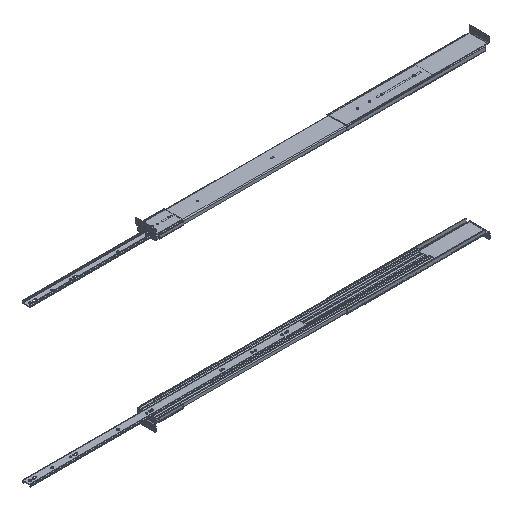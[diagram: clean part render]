
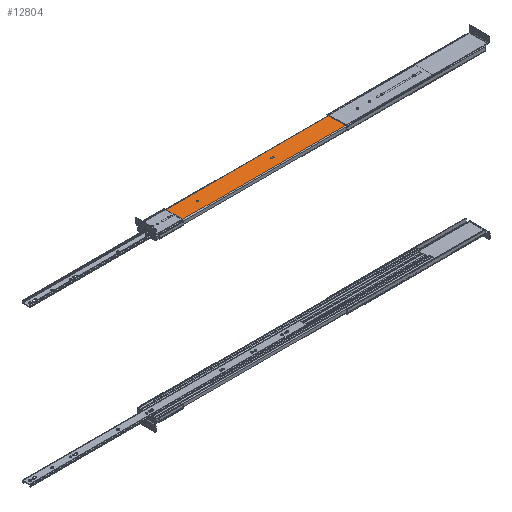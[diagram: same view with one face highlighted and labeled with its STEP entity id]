
A CAD part, isometric view. The second image highlights one B-rep face of the part: STEP entity #12804.
In plain terms, the highlighted planar face has unit normal (0, 0, 1).
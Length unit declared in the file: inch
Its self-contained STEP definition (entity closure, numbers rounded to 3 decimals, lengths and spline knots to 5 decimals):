
#274 = VERTEX_POINT ( 'NONE', #1266 ) ;
#284 = VERTEX_POINT ( 'NONE', #1129 ) ;
#290 = EDGE_CURVE ( 'NONE', #284, #291, #1350, .T. ) ;
#291 = VERTEX_POINT ( 'NONE', #1345 ) ;
#517 = EDGE_CURVE ( 'NONE', #274, #518, #1577, .T. ) ;
#518 = VERTEX_POINT ( 'NONE', #1573 ) ;
#1129 = CARTESIAN_POINT ( 'NONE',  ( 13.745, 1., 0. ) ) ;
#1266 = CARTESIAN_POINT ( 'NONE',  ( 5.42, 1., 0. ) ) ;
#1345 = CARTESIAN_POINT ( 'NONE',  ( 13.655, 1.09, 0. ) ) ;
#1346 = DIRECTION ( 'NONE',  ( -1., 0., 0. ) ) ;
#1347 = DIRECTION ( 'NONE',  ( 0., 0., 1. ) ) ;
#1348 = CARTESIAN_POINT ( 'NONE',  ( 13.655, 1., 0. ) ) ;
#1349 = AXIS2_PLACEMENT_3D ( 'NONE', #1348, #1347, #1346 ) ;
#1350 = CIRCLE ( 'NONE', #1349, 0.09 ) ;
#1573 = CARTESIAN_POINT ( 'NONE',  ( 5.6, 1., 0. ) ) ;
#1574 = DIRECTION ( 'NONE',  ( 1., 0., 0. ) ) ;
#1575 = DIRECTION ( 'NONE',  ( 0., 0., 1. ) ) ;
#1576 = AXIS2_PLACEMENT_3D ( 'NONE', #1595, #1575, #1574 ) ;
#1577 = CIRCLE ( 'NONE', #1576, 0.09 ) ;
#1595 = CARTESIAN_POINT ( 'NONE',  ( 5.51, 1., 0. ) ) ;
#5282 = CARTESIAN_POINT ( 'NONE',  ( 20.55868, 0.09, 0. ) ) ;
#5377 = CARTESIAN_POINT ( 'NONE',  ( 20.55868, 1.91, 0. ) ) ;
#5579 = DIRECTION ( 'NONE',  ( 0., 1., 0. ) ) ;
#5580 = VECTOR ( 'NONE', #5579, 39.37008 ) ;
#5581 = CARTESIAN_POINT ( 'NONE',  ( 20.55868, 2.0075, 0. ) ) ;
#5582 = LINE ( 'NONE', #5581, #5580 ) ;
#9626 = CIRCLE ( 'NONE', #9816, 0.09 ) ;
#9665 = FACE_OUTER_BOUND ( 'NONE', #13451, .T. ) ;
#9667 = FACE_BOUND ( 'NONE', #13448, .T. ) ;
#9674 = FACE_BOUND ( 'NONE', #12805, .T. ) ;
#9675 = PLANE ( 'NONE',  #9738 ) ;
#9681 = DIRECTION ( 'NONE',  ( 0., -1., 0. ) ) ;
#9682 = VECTOR ( 'NONE', #9681, 39.37008 ) ;
#9683 = CARTESIAN_POINT ( 'NONE',  ( 2.88868, 1.9425, 0. ) ) ;
#9684 = LINE ( 'NONE', #9683, #9682 ) ;
#9700 = CARTESIAN_POINT ( 'NONE',  ( 2.88868, 0.09, 0. ) ) ;
#9721 = DIRECTION ( 'NONE',  ( -1., 0., 0. ) ) ;
#9736 = CARTESIAN_POINT ( 'NONE',  ( 30., 0.09, 0. ) ) ;
#9738 = AXIS2_PLACEMENT_3D ( 'NONE', #9736, #9743, #9721 ) ;
#9743 = DIRECTION ( 'NONE',  ( 0., 0., -1. ) ) ;
#9812 = DIRECTION ( 'NONE',  ( 1., 0., 0. ) ) ;
#9813 = DIRECTION ( 'NONE',  ( 0., 0., 1. ) ) ;
#9815 = CARTESIAN_POINT ( 'NONE',  ( 5.51, 1., 0. ) ) ;
#9816 = AXIS2_PLACEMENT_3D ( 'NONE', #9815, #9813, #9812 ) ;
#9821 = CARTESIAN_POINT ( 'NONE',  ( 2.88868, 1.91, 0. ) ) ;
#9874 = DIRECTION ( 'NONE',  ( -1., 0., 0. ) ) ;
#9875 = CARTESIAN_POINT ( 'NONE',  ( 30., 0.09, 0. ) ) ;
#9955 = CARTESIAN_POINT ( 'NONE',  ( 13.485, 0.91, 0. ) ) ;
#10009 = LINE ( 'NONE', #9875, #10047 ) ;
#10047 = VECTOR ( 'NONE', #9874, 39.37008 ) ;
#10196 = CARTESIAN_POINT ( 'NONE',  ( 13.655, 0.91, 0. ) ) ;
#10239 = DIRECTION ( 'NONE',  ( -1., 0., 0. ) ) ;
#10240 = DIRECTION ( 'NONE',  ( 0., 0., 1. ) ) ;
#10241 = AXIS2_PLACEMENT_3D ( 'NONE', #10255, #10240, #10239 ) ;
#10242 = CIRCLE ( 'NONE', #10241, 0.09 ) ;
#10255 = CARTESIAN_POINT ( 'NONE',  ( 13.655, 1., 0. ) ) ;
#10272 = CARTESIAN_POINT ( 'NONE',  ( 13.485, 1.09, 0. ) ) ;
#10273 = DIRECTION ( 'NONE',  ( -1., 0., 0. ) ) ;
#10274 = VECTOR ( 'NONE', #10273, 39.37008 ) ;
#10275 = CARTESIAN_POINT ( 'NONE',  ( 13.485, 1.09, 0. ) ) ;
#10278 = LINE ( 'NONE', #10275, #10274 ) ;
#10341 = VECTOR ( 'NONE', #10358, 39.37008 ) ;
#10347 = CARTESIAN_POINT ( 'NONE',  ( 30., 1.91, 0. ) ) ;
#10357 = LINE ( 'NONE', #10347, #10341 ) ;
#10358 = DIRECTION ( 'NONE',  ( -1., 0., 0. ) ) ;
#10956 = VERTEX_POINT ( 'NONE', #5282 ) ;
#11142 = VERTEX_POINT ( 'NONE', #5377 ) ;
#11189 = EDGE_CURVE ( 'NONE', #10956, #11142, #5582, .T. ) ;
#12296 = DIRECTION ( 'NONE',  ( 1., 0., 0. ) ) ;
#12297 = VECTOR ( 'NONE', #12296, 39.37008 ) ;
#12298 = CARTESIAN_POINT ( 'NONE',  ( 13.485, 0.91, 0. ) ) ;
#12300 = LINE ( 'NONE', #12298, #12297 ) ;
#12330 = DIRECTION ( 'NONE',  ( -1., 0., 0. ) ) ;
#12331 = DIRECTION ( 'NONE',  ( 0., 0., 1. ) ) ;
#12332 = CARTESIAN_POINT ( 'NONE',  ( 13.485, 1., 0. ) ) ;
#12333 = AXIS2_PLACEMENT_3D ( 'NONE', #12332, #12331, #12330 ) ;
#12525 = CIRCLE ( 'NONE', #12333, 0.09 ) ;
#12753 = EDGE_CURVE ( 'NONE', #518, #274, #9626, .T. ) ;
#12767 = VERTEX_POINT ( 'NONE', #9700 ) ;
#12769 = EDGE_CURVE ( 'NONE', #12770, #12767, #9684, .T. ) ;
#12770 = VERTEX_POINT ( 'NONE', #9821 ) ;
#12804 = ADVANCED_FACE ( 'NONE', ( #9674, #9667, #9665 ), #9675, .F. ) ;
#12805 = EDGE_LOOP ( 'NONE', ( #12825, #12826, #12827, #13444, #13447 ) ) ;
#12825 = ORIENTED_EDGE ( 'NONE', *, *, #13461, .F. ) ;
#12826 = ORIENTED_EDGE ( 'NONE', *, *, #13453, .F. ) ;
#12827 = ORIENTED_EDGE ( 'NONE', *, *, #13057, .F. ) ;
#12828 = ORIENTED_EDGE ( 'NONE', *, *, #12829, .F. ) ;
#12829 = EDGE_CURVE ( 'NONE', #10956, #12767, #10009, .T. ) ;
#12830 = ORIENTED_EDGE ( 'NONE', *, *, #11189, .T. ) ;
#12831 = ORIENTED_EDGE ( 'NONE', *, *, #13113, .T. ) ;
#12832 = VERTEX_POINT ( 'NONE', #9955 ) ;
#12975 = VERTEX_POINT ( 'NONE', #10196 ) ;
#13047 = EDGE_CURVE ( 'NONE', #12975, #284, #10242, .T. ) ;
#13057 = EDGE_CURVE ( 'NONE', #291, #13058, #10278, .T. ) ;
#13058 = VERTEX_POINT ( 'NONE', #10272 ) ;
#13113 = EDGE_CURVE ( 'NONE', #11142, #12770, #10357, .T. ) ;
#13114 = ORIENTED_EDGE ( 'NONE', *, *, #12769, .T. ) ;
#13444 = ORIENTED_EDGE ( 'NONE', *, *, #290, .F. ) ;
#13447 = ORIENTED_EDGE ( 'NONE', *, *, #13047, .F. ) ;
#13448 = EDGE_LOOP ( 'NONE', ( #13449, #13450 ) ) ;
#13449 = ORIENTED_EDGE ( 'NONE', *, *, #12753, .F. ) ;
#13450 = ORIENTED_EDGE ( 'NONE', *, *, #517, .F. ) ;
#13451 = EDGE_LOOP ( 'NONE', ( #12828, #12830, #12831, #13114 ) ) ;
#13453 = EDGE_CURVE ( 'NONE', #13058, #12832, #12525, .T. ) ;
#13461 = EDGE_CURVE ( 'NONE', #12832, #12975, #12300, .T. ) ;
